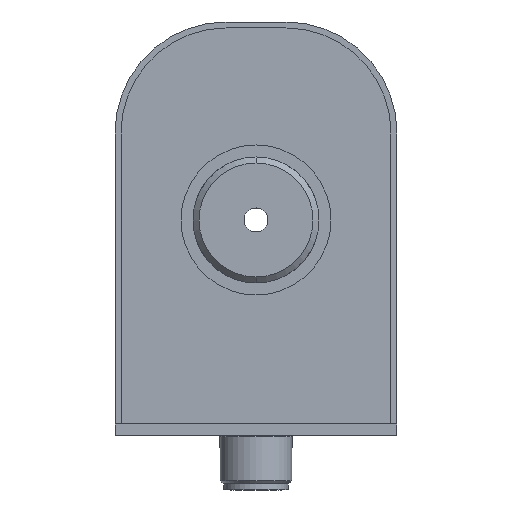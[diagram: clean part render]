
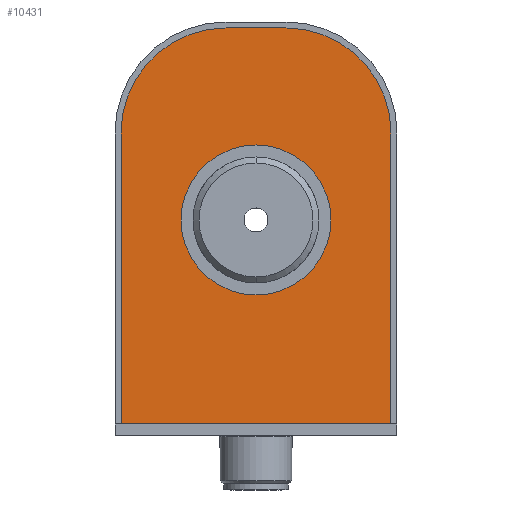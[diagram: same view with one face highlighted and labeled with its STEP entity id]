
A CAD part, left-side view. The second image highlights one B-rep face of the part: STEP entity #10431.
In plain terms, the highlighted planar face has unit normal (-1, 0, 0) as drawn and (0, 0, -1) by its records, which use the part's own axes.
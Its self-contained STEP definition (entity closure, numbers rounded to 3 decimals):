
#618 = EDGE_CURVE ( 'NONE', #7910, #10144, #7439, .T. ) ;
#689 = AXIS2_PLACEMENT_3D ( 'NONE', #6840, #15192, #8040 ) ;
#909 = EDGE_CURVE ( 'NONE', #5458, #10337, #9097, .T. ) ;
#1147 = LINE ( 'NONE', #8888, #7090 ) ;
#2033 = ORIENTED_EDGE ( 'NONE', *, *, #9903, .F. ) ;
#2097 = CARTESIAN_POINT ( 'NONE',  ( 27.5, 17.5, 0. ) ) ;
#2237 = CARTESIAN_POINT ( 'NONE',  ( 10., 17.5, 0. ) ) ;
#2258 = DIRECTION ( 'NONE',  ( 0., 0., 1. ) ) ;
#2334 = EDGE_CURVE ( 'NONE', #12542, #5435, #12164, .T. ) ;
#2395 = DIRECTION ( 'NONE',  ( 0., 0., 1. ) ) ;
#2420 = EDGE_CURVE ( 'NONE', #10144, #5458, #13484, .T. ) ;
#2450 = LINE ( 'NONE', #6546, #8029 ) ;
#3447 = CARTESIAN_POINT ( 'NONE',  ( 10., 0., 0. ) ) ;
#3722 = EDGE_CURVE ( 'NONE', #8292, #7910, #1147, .T. ) ;
#3846 = FACE_BOUND ( 'NONE', #12831, .T. ) ;
#4547 = VECTOR ( 'NONE', #6442, 1000. ) ;
#4551 = DIRECTION ( 'NONE',  ( 0., 0., 1. ) ) ;
#4919 = LINE ( 'NONE', #5236, #4547 ) ;
#4963 = ORIENTED_EDGE ( 'NONE', *, *, #909, .F. ) ;
#5040 = ORIENTED_EDGE ( 'NONE', *, *, #618, .F. ) ;
#5236 = CARTESIAN_POINT ( 'NONE',  ( 27.5, 66., 0. ) ) ;
#5360 = DIRECTION ( 'NONE',  ( 0., -1., 0. ) ) ;
#5435 = VERTEX_POINT ( 'NONE', #15250 ) ;
#5458 = VERTEX_POINT ( 'NONE', #3447 ) ;
#5689 = CARTESIAN_POINT ( 'NONE',  ( -17.5, 17.5, 0. ) ) ;
#6442 = DIRECTION ( 'NONE',  ( -1., 0., 0. ) ) ;
#6546 = CARTESIAN_POINT ( 'NONE',  ( 27.5, 17.5, 0. ) ) ;
#6840 = CARTESIAN_POINT ( 'NONE',  ( 5., 32., 0. ) ) ;
#6890 = AXIS2_PLACEMENT_3D ( 'NONE', #9507, #2395, #10709 ) ;
#6963 = CARTESIAN_POINT ( 'NONE',  ( 0., 17.5, 0. ) ) ;
#7090 = VECTOR ( 'NONE', #5360, 1000. ) ;
#7138 = VECTOR ( 'NONE', #13008, 1000. ) ;
#7332 = CIRCLE ( 'NONE', #689, 11.85 ) ;
#7439 = CIRCLE ( 'NONE', #6890, 17.5 ) ;
#7910 = VERTEX_POINT ( 'NONE', #5689 ) ;
#8029 = VECTOR ( 'NONE', #8940, 1000. ) ;
#8040 = DIRECTION ( 'NONE',  ( 1., 0., 0. ) ) ;
#8292 = VERTEX_POINT ( 'NONE', #13391 ) ;
#8422 = EDGE_CURVE ( 'NONE', #10296, #8292, #4919, .T. ) ;
#8888 = CARTESIAN_POINT ( 'NONE',  ( -17.5, 66., 0. ) ) ;
#8940 = DIRECTION ( 'NONE',  ( 0., 1., 0. ) ) ;
#8968 = EDGE_CURVE ( 'NONE', #5435, #12542, #7332, .T. ) ;
#9097 = CIRCLE ( 'NONE', #13852, 17.5 ) ;
#9285 = DIRECTION ( 'NONE',  ( 1., 0., 0. ) ) ;
#9356 = PLANE ( 'NONE',  #11075 ) ;
#9429 = CARTESIAN_POINT ( 'NONE',  ( 0., 0., 0. ) ) ;
#9507 = CARTESIAN_POINT ( 'NONE',  ( 0., 17.5, 0. ) ) ;
#9802 = FACE_OUTER_BOUND ( 'NONE', #12585, .T. ) ;
#9903 = EDGE_CURVE ( 'NONE', #10337, #10296, #2450, .T. ) ;
#10144 = VERTEX_POINT ( 'NONE', #9429 ) ;
#10296 = VERTEX_POINT ( 'NONE', #12739 ) ;
#10337 = VERTEX_POINT ( 'NONE', #2097 ) ;
#10431 = ADVANCED_FACE ( 'NONE', ( #9802, #3846 ), #9356, .F. ) ;
#10567 = DIRECTION ( 'NONE',  ( 1., 0., 0. ) ) ;
#10648 = CARTESIAN_POINT ( 'NONE',  ( 0., 0., 0. ) ) ;
#10709 = DIRECTION ( 'NONE',  ( 1., 0., 0. ) ) ;
#10785 = ORIENTED_EDGE ( 'NONE', *, *, #8968, .T. ) ;
#10959 = ORIENTED_EDGE ( 'NONE', *, *, #8422, .F. ) ;
#11075 = AXIS2_PLACEMENT_3D ( 'NONE', #6963, #2258, #10567 ) ;
#11706 = CARTESIAN_POINT ( 'NONE',  ( 5., 32., 0. ) ) ;
#12164 = CIRCLE ( 'NONE', #13947, 11.85 ) ;
#12542 = VERTEX_POINT ( 'NONE', #14900 ) ;
#12557 = DIRECTION ( 'NONE',  ( 0., 0., 1. ) ) ;
#12585 = EDGE_LOOP ( 'NONE', ( #5040, #12963, #10959, #2033, #4963, #15173 ) ) ;
#12739 = CARTESIAN_POINT ( 'NONE',  ( 27.5, 66., 0. ) ) ;
#12831 = EDGE_LOOP ( 'NONE', ( #10785, #13556 ) ) ;
#12900 = DIRECTION ( 'NONE',  ( 1., 0., 0. ) ) ;
#12963 = ORIENTED_EDGE ( 'NONE', *, *, #3722, .F. ) ;
#13008 = DIRECTION ( 'NONE',  ( 1., 0., 0. ) ) ;
#13391 = CARTESIAN_POINT ( 'NONE',  ( -17.5, 66., 0. ) ) ;
#13484 = LINE ( 'NONE', #10648, #7138 ) ;
#13556 = ORIENTED_EDGE ( 'NONE', *, *, #2334, .T. ) ;
#13852 = AXIS2_PLACEMENT_3D ( 'NONE', #2237, #12557, #9285 ) ;
#13947 = AXIS2_PLACEMENT_3D ( 'NONE', #11706, #4551, #12900 ) ;
#14900 = CARTESIAN_POINT ( 'NONE',  ( 16.85, 32., 0. ) ) ;
#15173 = ORIENTED_EDGE ( 'NONE', *, *, #2420, .F. ) ;
#15192 = DIRECTION ( 'NONE',  ( 0., 0., 1. ) ) ;
#15250 = CARTESIAN_POINT ( 'NONE',  ( -6.85, 32., 0. ) ) ;
